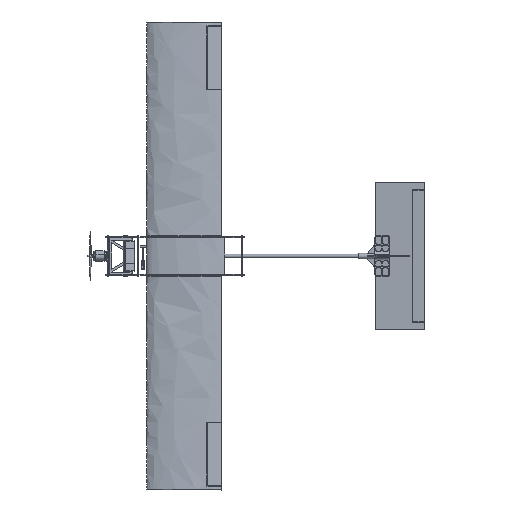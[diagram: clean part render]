
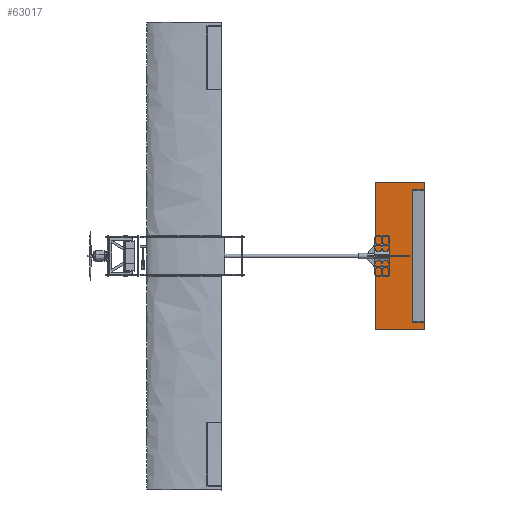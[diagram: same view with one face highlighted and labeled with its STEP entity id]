
A CAD part, top view. The second image highlights one B-rep face of the part: STEP entity #63017.
In plain terms, the highlighted planar face has unit normal (-0.044, 0, 0.999) as drawn and (0, 1, 0) by its records, which use the part's own axes.
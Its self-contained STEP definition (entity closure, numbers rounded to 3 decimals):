
#5784=PLANE('',#68643);
#8500=FACE_OUTER_BOUND('',#11840,.T.);
#11840=EDGE_LOOP('',(#52921,#52922,#52923,#52924,#52925,#52926,#52927,#52928));
#16181=LINE('',#132344,#21364);
#16184=LINE('',#132350,#21367);
#16187=LINE('',#132356,#21370);
#16189=LINE('',#132360,#21372);
#16190=LINE('',#132362,#21373);
#16191=LINE('',#132364,#21374);
#16192=LINE('',#132366,#21375);
#16193=LINE('',#132367,#21376);
#21364=VECTOR('',#81860,10.);
#21367=VECTOR('',#81865,10.);
#21370=VECTOR('',#81870,10.);
#21372=VECTOR('',#81874,10.);
#21373=VECTOR('',#81875,10.);
#21374=VECTOR('',#81876,10.);
#21375=VECTOR('',#81877,10.);
#21376=VECTOR('',#81878,10.);
#30787=VERTEX_POINT('',#132341);
#30788=VERTEX_POINT('',#132343);
#30790=VERTEX_POINT('',#132349);
#30792=VERTEX_POINT('',#132355);
#30793=VERTEX_POINT('',#132359);
#30794=VERTEX_POINT('',#132361);
#30795=VERTEX_POINT('',#132363);
#30796=VERTEX_POINT('',#132365);
#39383=EDGE_CURVE('',#30788,#30787,#16181,.T.);
#39386=EDGE_CURVE('',#30790,#30788,#16184,.T.);
#39389=EDGE_CURVE('',#30792,#30790,#16187,.T.);
#39391=EDGE_CURVE('',#30787,#30793,#16189,.T.);
#39392=EDGE_CURVE('',#30793,#30794,#16190,.T.);
#39393=EDGE_CURVE('',#30794,#30795,#16191,.T.);
#39394=EDGE_CURVE('',#30795,#30796,#16192,.T.);
#39395=EDGE_CURVE('',#30796,#30792,#16193,.T.);
#52921=ORIENTED_EDGE('',*,*,#39383,.T.);
#52922=ORIENTED_EDGE('',*,*,#39391,.T.);
#52923=ORIENTED_EDGE('',*,*,#39392,.T.);
#52924=ORIENTED_EDGE('',*,*,#39393,.T.);
#52925=ORIENTED_EDGE('',*,*,#39394,.T.);
#52926=ORIENTED_EDGE('',*,*,#39395,.T.);
#52927=ORIENTED_EDGE('',*,*,#39389,.T.);
#52928=ORIENTED_EDGE('',*,*,#39386,.T.);
#63017=ADVANCED_FACE('',(#8500),#5784,.T.);
#68643=AXIS2_PLACEMENT_3D('',#132358,#81872,#81873);
#81860=DIRECTION('',(0.,0.,-1.));
#81865=DIRECTION('',(-1.,0.,0.));
#81870=DIRECTION('',(0.,0.,1.));
#81872=DIRECTION('center_axis',(0.,1.,0.));
#81873=DIRECTION('ref_axis',(0.,0.,1.));
#81874=DIRECTION('',(-1.,0.,0.));
#81875=DIRECTION('',(0.,0.,1.));
#81876=DIRECTION('',(1.,0.,0.));
#81877=DIRECTION('',(0.,0.,-1.));
#81878=DIRECTION('',(-1.,0.,0.));
#132341=CARTESIAN_POINT('',(-224.1,3.,-166.));
#132343=CARTESIAN_POINT('',(-224.1,3.,-124.5));
#132344=CARTESIAN_POINT('',(-224.1,3.,-103.75));
#132349=CARTESIAN_POINT('',(224.1,3.,-124.5));
#132350=CARTESIAN_POINT('',(112.05,3.,-124.5));
#132355=CARTESIAN_POINT('',(224.1,3.,-166.));
#132356=CARTESIAN_POINT('',(224.1,3.,-124.5));
#132358=CARTESIAN_POINT('Origin',(0.,3.,-83.));
#132359=CARTESIAN_POINT('',(-249.,3.,-166.));
#132360=CARTESIAN_POINT('',(-249.,3.,-166.));
#132361=CARTESIAN_POINT('',(-249.,3.,0.));
#132362=CARTESIAN_POINT('',(-249.,3.,0.));
#132363=CARTESIAN_POINT('',(249.,3.,0.));
#132364=CARTESIAN_POINT('',(0.,3.,0.));
#132365=CARTESIAN_POINT('',(249.,3.,-166.));
#132366=CARTESIAN_POINT('',(249.,3.,-166.));
#132367=CARTESIAN_POINT('',(-249.,3.,-166.));
